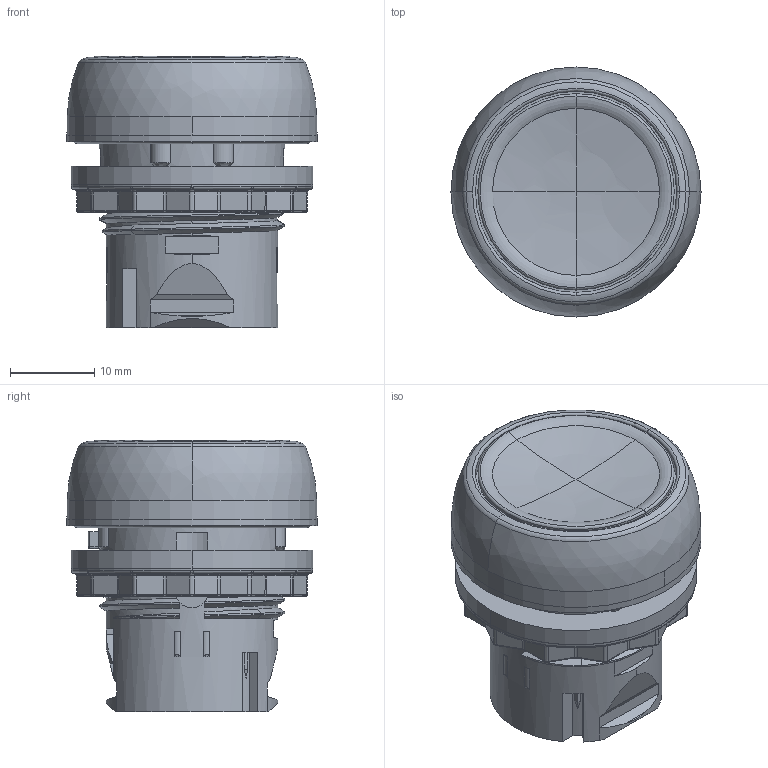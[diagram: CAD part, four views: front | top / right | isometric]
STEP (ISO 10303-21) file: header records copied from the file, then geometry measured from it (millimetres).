
FILE_DESCRIPTION((''),'2;1');
FILE_NAME('800FP-LF3_SW0001','2022-04-05T17:53:44',('SGowda1'),('Rockwell Automation'),'CREO PARAMETRIC BY PTC INC, 2020281','CREO PARAMETRIC BY PTC INC, 2020281','');
FILE_SCHEMA(('CONFIG_CONTROL_DESIGN','SHAPE_APPEARANCE_LAYERS_GROUPS'));
Length unit declared in the file: inch
Products named in the file (1): 800FP-LF3_SW0001
Bounding box: 29.6 x 29.6 x 32.13 mm (x, y, z)
Surface area: 4612.6 mm2 (no closed solid volume)
Topology: 0 solids, 16 shells, 418 faces, 1163 edges, 763 vertices
Faces by surface type: cylinder 138, plane 123, torus 60, cone 48, bspline 41, sphere 6, extrusion 2
Entity records: 18233 total; most frequent: CARTESIAN_POINT 4553, DIRECTION 2350, ORIENTED_EDGE 2194, EDGE_CURVE 1159, AXIS2_PLACEMENT_3D 951, VERTEX_POINT 763, CIRCLE 576, VECTOR 448
